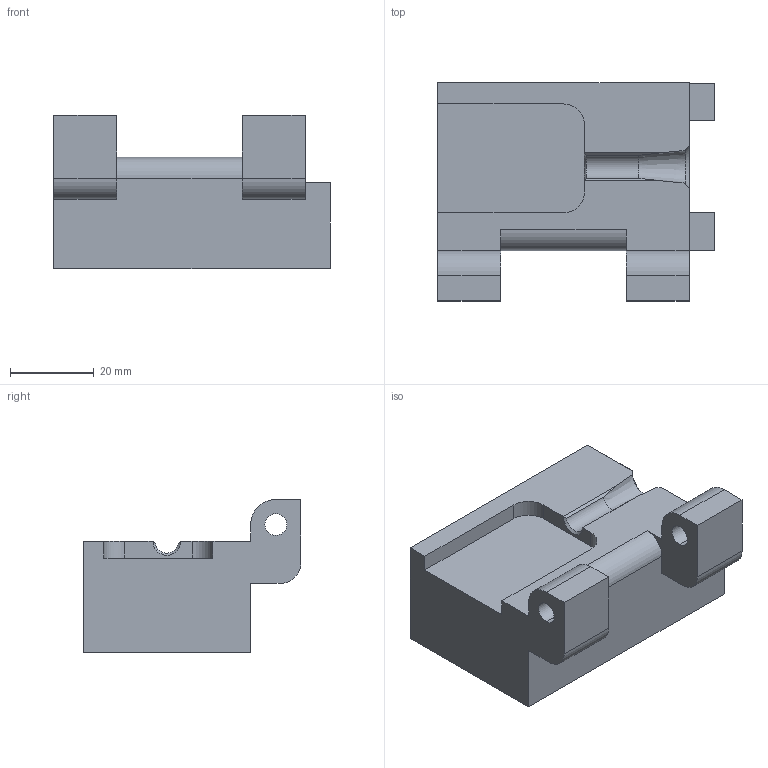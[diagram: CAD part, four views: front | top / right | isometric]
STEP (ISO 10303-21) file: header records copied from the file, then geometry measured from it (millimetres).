
FILE_DESCRIPTION (( 'STEP AP214' ), '1' );
FILE_NAME ('GZ27.07_V1狟揤輸.STEP', '2021-04-11T10:02:34', ( 'hp' ), ( '' ), 'SwSTEP 2.0', 'SolidWorks 2017', '' );
FILE_SCHEMA (( 'AUTOMOTIVE_DESIGN' ));
Length unit declared in the file: millimetre
Products named in the file (1): GZ27.07_V1狟揤輸
Bounding box: 66 x 52 x 36.5 mm (x, y, z)
Volume: 64506.4 mm3; surface area: 14832.5 mm2
Topology: 1 solids, 1 shells, 66 faces, 182 edges, 114 vertices
Faces by surface type: plane 35, cylinder 20, cone 11
Entity records: 2178 total; most frequent: CARTESIAN_POINT 386, ORIENTED_EDGE 348, DIRECTION 343, EDGE_CURVE 174, LINE 123, VECTOR 123, VERTEX_POINT 114, AXIS2_PLACEMENT_3D 110
